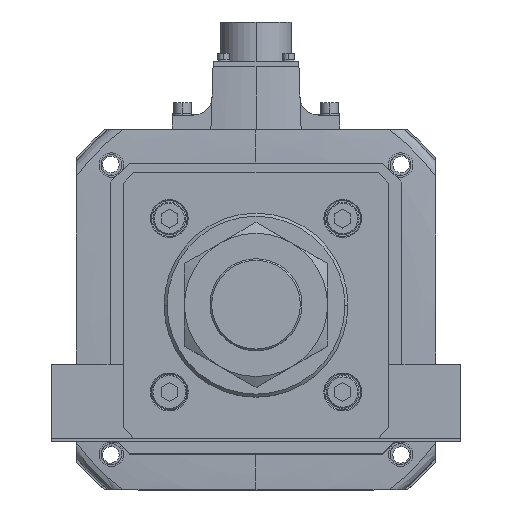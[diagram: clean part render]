
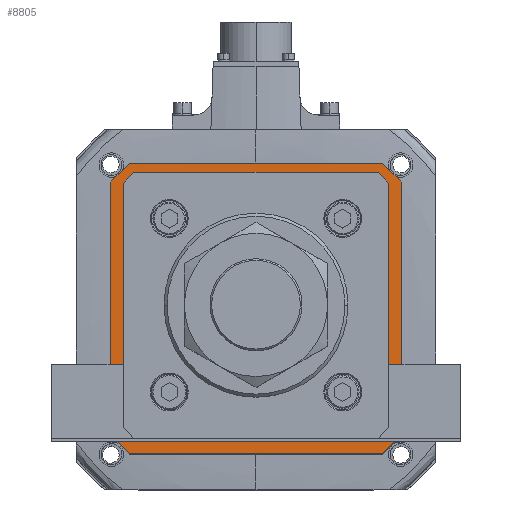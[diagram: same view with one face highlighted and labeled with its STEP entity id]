
A CAD part, top view. The second image highlights one B-rep face of the part: STEP entity #8805.
In plain terms, the highlighted planar face has unit normal (0, 0, 1).
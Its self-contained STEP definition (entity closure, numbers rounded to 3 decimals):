
#621 = PLANE ( 'NONE',  #48481 ) ;
#1084 = VECTOR ( 'NONE', #7718, 1000. ) ;
#1497 = CARTESIAN_POINT ( 'NONE',  ( -60.896, -60.896, -142. ) ) ;
#1831 = CARTESIAN_POINT ( 'NONE',  ( 62., -71., -142. ) ) ;
#2362 = EDGE_CURVE ( 'NONE', #9008, #23969, #39360, .T. ) ;
#2441 = CARTESIAN_POINT ( 'NONE',  ( 71., 62., -142. ) ) ;
#2847 = EDGE_CURVE ( 'NONE', #22463, #35458, #53330, .T. ) ;
#3382 = EDGE_CURVE ( 'NONE', #43100, #24620, #20532, .T. ) ;
#4379 = ORIENTED_EDGE ( 'NONE', *, *, #45813, .T. ) ;
#5106 = DIRECTION ( 'NONE',  ( 0., 0., 1. ) ) ;
#5294 = VECTOR ( 'NONE', #44821, 1000. ) ;
#5589 = VECTOR ( 'NONE', #45169, 1000. ) ;
#5811 = DIRECTION ( 'NONE',  ( -0.707, 0.707, 0. ) ) ;
#6831 = DIRECTION ( 'NONE',  ( 0.707, 0.707, 0. ) ) ;
#7706 = EDGE_CURVE ( 'NONE', #26324, #22541, #15560, .T. ) ;
#7718 = DIRECTION ( 'NONE',  ( 0., 1., 0. ) ) ;
#7920 = ORIENTED_EDGE ( 'NONE', *, *, #30470, .T. ) ;
#8531 = EDGE_CURVE ( 'NONE', #11709, #9008, #19481, .T. ) ;
#8621 = VECTOR ( 'NONE', #41054, 1000. ) ;
#8805 = ADVANCED_FACE ( 'NONE', ( #20807, #52202 ), #621, .T. ) ;
#9008 = VERTEX_POINT ( 'NONE', #15279 ) ;
#10162 = ORIENTED_EDGE ( 'NONE', *, *, #12199, .F. ) ;
#11140 = EDGE_CURVE ( 'NONE', #37161, #26324, #45650, .T. ) ;
#11709 = VERTEX_POINT ( 'NONE', #21194 ) ;
#12199 = EDGE_CURVE ( 'NONE', #22541, #48058, #38958, .T. ) ;
#12426 = LINE ( 'NONE', #35799, #14469 ) ;
#12879 = CARTESIAN_POINT ( 'NONE',  ( -58.793, -63., -142. ) ) ;
#13491 = DIRECTION ( 'NONE',  ( 0.707, 0.707, 0. ) ) ;
#13745 = LINE ( 'NONE', #41441, #1084 ) ;
#13976 = EDGE_CURVE ( 'NONE', #23969, #21419, #37399, .T. ) ;
#14399 = DIRECTION ( 'NONE',  ( 0.707, -0.707, 0. ) ) ;
#14469 = VECTOR ( 'NONE', #44181, 1000. ) ;
#15139 = ORIENTED_EDGE ( 'NONE', *, *, #2362, .T. ) ;
#15279 = CARTESIAN_POINT ( 'NONE',  ( -58.793, 63., -142. ) ) ;
#15331 = ORIENTED_EDGE ( 'NONE', *, *, #8531, .T. ) ;
#15560 = LINE ( 'NONE', #38398, #46943 ) ;
#15578 = CARTESIAN_POINT ( 'NONE',  ( 58.793, -63., -142. ) ) ;
#15642 = DIRECTION ( 'NONE',  ( 0., -1., 0. ) ) ;
#15678 = ORIENTED_EDGE ( 'NONE', *, *, #2847, .T. ) ;
#16161 = LINE ( 'NONE', #22964, #50222 ) ;
#17163 = VECTOR ( 'NONE', #38220, 1000. ) ;
#18292 = DIRECTION ( 'NONE',  ( 0., 1., 0. ) ) ;
#18507 = LINE ( 'NONE', #33548, #17163 ) ;
#19481 = LINE ( 'NONE', #23752, #40861 ) ;
#20234 = VERTEX_POINT ( 'NONE', #54010 ) ;
#20379 = VECTOR ( 'NONE', #13491, 1000. ) ;
#20532 = LINE ( 'NONE', #45670, #8621 ) ;
#20807 = FACE_BOUND ( 'NONE', #52436, .T. ) ;
#20946 = CARTESIAN_POINT ( 'NONE',  ( 62., 71., -142. ) ) ;
#21194 = CARTESIAN_POINT ( 'NONE',  ( -63., 58.793, -142. ) ) ;
#21419 = VERTEX_POINT ( 'NONE', #37051 ) ;
#21579 = DIRECTION ( 'NONE',  ( -1., 0., 0. ) ) ;
#22153 = CARTESIAN_POINT ( 'NONE',  ( 63., -58.793, -142. ) ) ;
#22309 = ORIENTED_EDGE ( 'NONE', *, *, #47129, .F. ) ;
#22394 = CARTESIAN_POINT ( 'NONE',  ( 0., 0., -142. ) ) ;
#22463 = VERTEX_POINT ( 'NONE', #22153 ) ;
#22541 = VERTEX_POINT ( 'NONE', #1831 ) ;
#22625 = CARTESIAN_POINT ( 'NONE',  ( 71., 62., -142. ) ) ;
#22730 = VECTOR ( 'NONE', #14399, 1000. ) ;
#22964 = CARTESIAN_POINT ( 'NONE',  ( -71., 62., -142. ) ) ;
#23564 = CARTESIAN_POINT ( 'NONE',  ( 62., -71., -142. ) ) ;
#23752 = CARTESIAN_POINT ( 'NONE',  ( -60.896, 60.896, -142. ) ) ;
#23969 = VERTEX_POINT ( 'NONE', #29773 ) ;
#23980 = VECTOR ( 'NONE', #49174, 1000. ) ;
#24132 = VECTOR ( 'NONE', #21579, 1000. ) ;
#24568 = ORIENTED_EDGE ( 'NONE', *, *, #42172, .T. ) ;
#24620 = VERTEX_POINT ( 'NONE', #20946 ) ;
#24907 = CARTESIAN_POINT ( 'NONE',  ( -62., -71., -142. ) ) ;
#25936 = VERTEX_POINT ( 'NONE', #52480 ) ;
#26324 = VERTEX_POINT ( 'NONE', #26492 ) ;
#26492 = CARTESIAN_POINT ( 'NONE',  ( 71., -62., -142. ) ) ;
#27105 = LINE ( 'NONE', #43889, #20379 ) ;
#27266 = CARTESIAN_POINT ( 'NONE',  ( 60.896, 60.896, -142. ) ) ;
#27532 = EDGE_CURVE ( 'NONE', #32980, #11709, #13745, .T. ) ;
#29773 = CARTESIAN_POINT ( 'NONE',  ( 58.793, 63., -142. ) ) ;
#30230 = VECTOR ( 'NONE', #5811, 1000. ) ;
#30433 = DIRECTION ( 'NONE',  ( 1., 0., 0. ) ) ;
#30470 = EDGE_CURVE ( 'NONE', #45492, #32980, #38930, .T. ) ;
#31414 = ORIENTED_EDGE ( 'NONE', *, *, #27532, .T. ) ;
#32482 = CARTESIAN_POINT ( 'NONE',  ( -62., 71., -142. ) ) ;
#32980 = VERTEX_POINT ( 'NONE', #39870 ) ;
#33530 = ORIENTED_EDGE ( 'NONE', *, *, #13976, .T. ) ;
#33548 = CARTESIAN_POINT ( 'NONE',  ( -62., -71., -142. ) ) ;
#33574 = CARTESIAN_POINT ( 'NONE',  ( 71., 62., -142. ) ) ;
#34514 = ORIENTED_EDGE ( 'NONE', *, *, #44998, .F. ) ;
#35186 = LINE ( 'NONE', #33574, #41160 ) ;
#35458 = VERTEX_POINT ( 'NONE', #15578 ) ;
#35799 = CARTESIAN_POINT ( 'NONE',  ( 63., 0., -142. ) ) ;
#36263 = CARTESIAN_POINT ( 'NONE',  ( 60.896, -60.896, -142. ) ) ;
#37051 = CARTESIAN_POINT ( 'NONE',  ( 63., 58.793, -142. ) ) ;
#37161 = VERTEX_POINT ( 'NONE', #22625 ) ;
#37399 = LINE ( 'NONE', #27266, #22730 ) ;
#38220 = DIRECTION ( 'NONE',  ( -0.707, 0.707, 0. ) ) ;
#38398 = CARTESIAN_POINT ( 'NONE',  ( 71., -62., -142. ) ) ;
#38930 = LINE ( 'NONE', #1497, #30230 ) ;
#38958 = LINE ( 'NONE', #23564, #5589 ) ;
#39360 = LINE ( 'NONE', #40441, #23980 ) ;
#39870 = CARTESIAN_POINT ( 'NONE',  ( -63., -58.793, -142. ) ) ;
#40441 = CARTESIAN_POINT ( 'NONE',  ( 0., 63., -142. ) ) ;
#40861 = VECTOR ( 'NONE', #6831, 1000. ) ;
#41054 = DIRECTION ( 'NONE',  ( 1., 0., 0. ) ) ;
#41160 = VECTOR ( 'NONE', #45669, 1000. ) ;
#41441 = CARTESIAN_POINT ( 'NONE',  ( -63., 0., -142. ) ) ;
#42172 = EDGE_CURVE ( 'NONE', #35458, #45492, #42183, .T. ) ;
#42183 = LINE ( 'NONE', #51243, #24132 ) ;
#43100 = VERTEX_POINT ( 'NONE', #32482 ) ;
#43889 = CARTESIAN_POINT ( 'NONE',  ( -62., 71., -142. ) ) ;
#44181 = DIRECTION ( 'NONE',  ( 0., -1., 0. ) ) ;
#44364 = ORIENTED_EDGE ( 'NONE', *, *, #3382, .F. ) ;
#44821 = DIRECTION ( 'NONE',  ( -0.707, -0.707, 0. ) ) ;
#44998 = EDGE_CURVE ( 'NONE', #48058, #25936, #18507, .T. ) ;
#45169 = DIRECTION ( 'NONE',  ( -1., 0., 0. ) ) ;
#45407 = EDGE_CURVE ( 'NONE', #24620, #37161, #35186, .T. ) ;
#45476 = ORIENTED_EDGE ( 'NONE', *, *, #7706, .F. ) ;
#45492 = VERTEX_POINT ( 'NONE', #12879 ) ;
#45650 = LINE ( 'NONE', #2441, #50324 ) ;
#45669 = DIRECTION ( 'NONE',  ( 0.707, -0.707, 0. ) ) ;
#45670 = CARTESIAN_POINT ( 'NONE',  ( 62., 71., -142. ) ) ;
#45813 = EDGE_CURVE ( 'NONE', #21419, #22463, #12426, .T. ) ;
#46466 = ORIENTED_EDGE ( 'NONE', *, *, #45407, .F. ) ;
#46943 = VECTOR ( 'NONE', #46957, 1000. ) ;
#46957 = DIRECTION ( 'NONE',  ( -0.707, -0.707, 0. ) ) ;
#47129 = EDGE_CURVE ( 'NONE', #20234, #43100, #27105, .T. ) ;
#48058 = VERTEX_POINT ( 'NONE', #24907 ) ;
#48481 = AXIS2_PLACEMENT_3D ( 'NONE', #22394, #5106, #30433 ) ;
#49174 = DIRECTION ( 'NONE',  ( 1., 0., 0. ) ) ;
#49729 = EDGE_CURVE ( 'NONE', #25936, #20234, #16161, .T. ) ;
#50222 = VECTOR ( 'NONE', #18292, 1000. ) ;
#50324 = VECTOR ( 'NONE', #15642, 1000. ) ;
#51243 = CARTESIAN_POINT ( 'NONE',  ( 0., -63., -142. ) ) ;
#51745 = ORIENTED_EDGE ( 'NONE', *, *, #49729, .F. ) ;
#52202 = FACE_OUTER_BOUND ( 'NONE', #55230, .T. ) ;
#52436 = EDGE_LOOP ( 'NONE', ( #4379, #15678, #24568, #7920, #31414, #15331, #15139, #33530 ) ) ;
#52480 = CARTESIAN_POINT ( 'NONE',  ( -71., -62., -142. ) ) ;
#53330 = LINE ( 'NONE', #36263, #5294 ) ;
#54010 = CARTESIAN_POINT ( 'NONE',  ( -71., 62., -142. ) ) ;
#54047 = ORIENTED_EDGE ( 'NONE', *, *, #11140, .F. ) ;
#55230 = EDGE_LOOP ( 'NONE', ( #44364, #22309, #51745, #34514, #10162, #45476, #54047, #46466 ) ) ;
